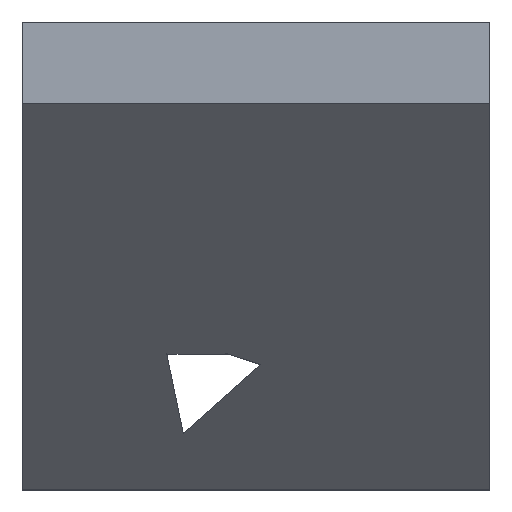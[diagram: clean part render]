
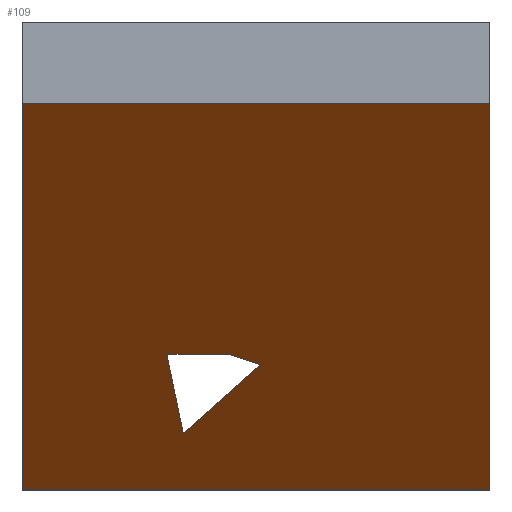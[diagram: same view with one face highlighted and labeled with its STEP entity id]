
A CAD part, top view. The second image highlights one B-rep face of the part: STEP entity #109.
In plain terms, the highlighted planar face has unit normal (0, -0.707, 0.707).
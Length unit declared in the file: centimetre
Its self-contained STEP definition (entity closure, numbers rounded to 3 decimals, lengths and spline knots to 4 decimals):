
#2 = CARTESIAN_POINT ( 'NONE',  ( 344.403, 120.5704, 294.1951 ) ) ;
#7 = CARTESIAN_POINT ( 'NONE',  ( 0., 826.3753, 1000. ) ) ;
#9 = CARTESIAN_POINT ( 'NONE',  ( 0., 826.3753, 1000. ) ) ;
#10 = ORIENTED_EDGE ( 'NONE', *, *, #222, .F. ) ;
#25 = LINE ( 'NONE', #378, #75 ) ;
#36 = DIRECTION ( 'NONE',  ( -1., 0., 0. ) ) ;
#46 = VERTEX_POINT ( 'NONE', #373 ) ;
#47 = DIRECTION ( 'NONE',  ( 0.62, 0.555, 0.555 ) ) ;
#67 = CARTESIAN_POINT ( 'NONE',  ( 192.8038, 846.5071, 1020.1319 ) ) ;
#69 = DIRECTION ( 'NONE',  ( -1., 0., 0. ) ) ;
#71 = EDGE_CURVE ( 'NONE', #86, #282, #126, .T. ) ;
#75 = VECTOR ( 'NONE', #153, 100. ) ;
#76 = LINE ( 'NONE', #293, #344 ) ;
#84 = EDGE_CURVE ( 'NONE', #210, #169, #94, .T. ) ;
#85 = CARTESIAN_POINT ( 'NONE',  ( 0., 826.3753, 1000. ) ) ;
#86 = VERTEX_POINT ( 'NONE', #243 ) ;
#89 = VECTOR ( 'NONE', #162, 100. ) ;
#92 = DIRECTION ( 'NONE',  ( 0., -0.707, 0.707 ) ) ;
#94 = LINE ( 'NONE', #67, #325 ) ;
#100 = EDGE_CURVE ( 'NONE', #327, #103, #288, .T. ) ;
#102 = FACE_OUTER_BOUND ( 'NONE', #105, .T. ) ;
#103 = VERTEX_POINT ( 'NONE', #131 ) ;
#105 = EDGE_LOOP ( 'NONE', ( #387, #401, #370, #251 ) ) ;
#109 = ADVANCED_FACE ( 'NONE', ( #221, #102 ), #278, .T. ) ;
#117 = CARTESIAN_POINT ( 'NONE',  ( 443.957, 289.4389, 463.0636 ) ) ;
#126 = LINE ( 'NONE', #9, #262 ) ;
#128 = DIRECTION ( 'NONE',  ( 0., 0.707, 0.707 ) ) ;
#131 = CARTESIAN_POINT ( 'NONE',  ( 1000., 0., 173.6247 ) ) ;
#153 = DIRECTION ( 'NONE',  ( -1., 0., 0. ) ) ;
#162 = DIRECTION ( 'NONE',  ( 0., -0.707, -0.707 ) ) ;
#166 = EDGE_CURVE ( 'NONE', #313, #210, #316, .T. ) ;
#169 = VERTEX_POINT ( 'NONE', #2 ) ;
#172 = CARTESIAN_POINT ( 'NONE',  ( 309.1377, 289.4389, 463.0636 ) ) ;
#174 = VECTOR ( 'NONE', #308, 100. ) ;
#183 = CARTESIAN_POINT ( 'NONE',  ( 1000., 826.3753, 1000. ) ) ;
#184 = CARTESIAN_POINT ( 'NONE',  ( 1000., 826.3753, 1000. ) ) ;
#201 = EDGE_CURVE ( 'NONE', #46, #313, #350, .T. ) ;
#202 = VECTOR ( 'NONE', #356, 100. ) ;
#210 = VERTEX_POINT ( 'NONE', #172 ) ;
#221 = FACE_BOUND ( 'NONE', #362, .T. ) ;
#222 = EDGE_CURVE ( 'NONE', #169, #46, #76, .T. ) ;
#230 = AXIS2_PLACEMENT_3D ( 'NONE', #7, #92, #69 ) ;
#242 = CARTESIAN_POINT ( 'NONE',  ( 1000., 826.3753, 1000. ) ) ;
#243 = CARTESIAN_POINT ( 'NONE',  ( 0., 0., 173.6247 ) ) ;
#244 = VECTOR ( 'NONE', #36, 100. ) ;
#251 = ORIENTED_EDGE ( 'NONE', *, *, #371, .F. ) ;
#257 = ORIENTED_EDGE ( 'NONE', *, *, #166, .F. ) ;
#262 = VECTOR ( 'NONE', #128, 100. ) ;
#263 = CARTESIAN_POINT ( 'NONE',  ( -211.4024, 504.9646, 678.5893 ) ) ;
#278 = PLANE ( 'NONE',  #230 ) ;
#282 = VERTEX_POINT ( 'NONE', #85 ) ;
#288 = LINE ( 'NONE', #183, #89 ) ;
#293 = CARTESIAN_POINT ( 'NONE',  ( 697.5226, 436.2481, 609.8728 ) ) ;
#308 = DIRECTION ( 'NONE',  ( 1., 0., 0. ) ) ;
#309 = CARTESIAN_POINT ( 'NONE',  ( 0., 289.4389, 463.0636 ) ) ;
#313 = VERTEX_POINT ( 'NONE', #117 ) ;
#315 = EDGE_CURVE ( 'NONE', #103, #86, #25, .T. ) ;
#316 = LINE ( 'NONE', #309, #244 ) ;
#325 = VECTOR ( 'NONE', #382, 100. ) ;
#327 = VERTEX_POINT ( 'NONE', #242 ) ;
#340 = LINE ( 'NONE', #184, #174 ) ;
#344 = VECTOR ( 'NONE', #47, 100. ) ;
#350 = LINE ( 'NONE', #263, #202 ) ;
#356 = DIRECTION ( 'NONE',  ( -0.907, 0.298, 0.298 ) ) ;
#357 = ORIENTED_EDGE ( 'NONE', *, *, #84, .F. ) ;
#361 = ORIENTED_EDGE ( 'NONE', *, *, #201, .F. ) ;
#362 = EDGE_LOOP ( 'NONE', ( #357, #257, #361, #10 ) ) ;
#370 = ORIENTED_EDGE ( 'NONE', *, *, #100, .F. ) ;
#371 = EDGE_CURVE ( 'NONE', #282, #327, #340, .T. ) ;
#373 = CARTESIAN_POINT ( 'NONE',  ( 509.2728, 267.9587, 441.5834 ) ) ;
#378 = CARTESIAN_POINT ( 'NONE',  ( 0., 0., 173.6247 ) ) ;
#382 = DIRECTION ( 'NONE',  ( 0.146, -0.7, -0.7 ) ) ;
#387 = ORIENTED_EDGE ( 'NONE', *, *, #71, .F. ) ;
#401 = ORIENTED_EDGE ( 'NONE', *, *, #315, .F. ) ;
